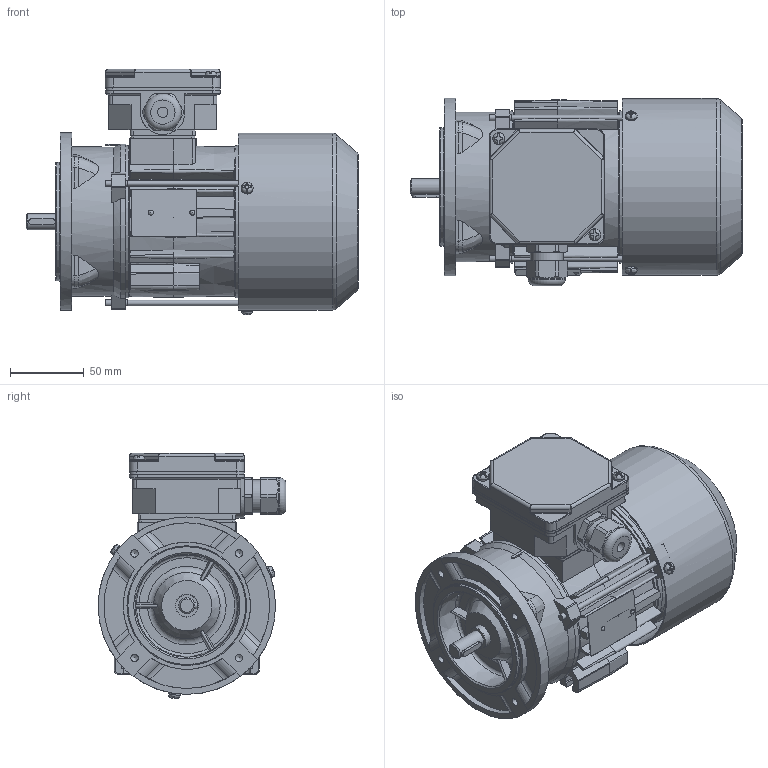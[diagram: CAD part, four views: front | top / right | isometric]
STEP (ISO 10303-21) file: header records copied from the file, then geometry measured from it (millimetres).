
FILE_DESCRIPTION( ( 'Unknown' ), '1' );
FILE_NAME( 'G:/Poczta Tk-1/STP/w.m.63/Sh63/SKh63-C1.stp', 'Unknown', ( 'K. Szlosek' ), ( 'BESEL S.A.' ), 'PSStep 17.0.49', 'Unknown', ' ' );
FILE_SCHEMA( ( 'AUTOMOTIVE_DESIGN { 1 0 10303 214 1 1 1 1 }' ) );
Length unit declared in the file: millimetre
Products named in the file (29): Assem1; K3-9973 Kadłub ze stojanem wykończonym Sh63-C; K3-5320 Tarcza łożyskowa P Sg63; K4-2320 Uszczelka nr 1 Sh71,80; Wpust A4x4x18; K3-5321 osłona przewietrznika Sg63; K4-2820 Uszczelka nr 2 Sh71,80; K2-0860 Pokrywka skrzynki zaciskowej; Wkręt samogwintujący M4x16; K2-1769 Przewietrznik Sg63; Wkręt samogwintujący M4x8; Nitokołek A 2x6; K3-9974 wał Sh63-C standard; K2-0859 Podstawa skrzynki 6-cio zaciskowej; Łożysko 6202; Dławnica M20x1,5; Śruba ściągająca E_M4x100; Tabliczka znamionowa 32x44; K1-1111 Tarcza kołnierzowa w.m. 63 IMB14_1
Assembly tree (45 placements, depth 2):
  Assem1
    K3-9973 Kadłub ze stojanem wykończonym Sh63-C
    K3-5320 Tarcza łożyskowa P Sg63
    K4-2320 Uszczelka nr 1 Sh71,80
    Wpust A4x4x18
    K3-5321 osłona przewietrznika Sg63
    K4-2820 Uszczelka nr 2 Sh71,80
    K2-0860 Pokrywka skrzynki zaciskowej
    Wkręt samogwintujący M4x16  x2
    K2-1769 Przewietrznik Sg63
    Wkręt samogwintujący M4x8  x3
    Nitokołek A 2x6  x2
    K3-9974 wał Sh63-C standard
    K2-0859 Podstawa skrzynki 6-cio zaciskowej
    Łożysko 6202  x2
    Łożysko 6202  x2
    Łożysko 6202  x2
    Łożysko 6202  x2
    Łożysko 6202  x2
    Łożysko 6202  x2
    Łożysko 6202  x2
    Łożysko 6202  x2
    Łożysko 6202  x2
    Łożysko 6202  x2
    Łożysko 6202  x2
    Dławnica M20x1,5
    Śruba ściągająca E_M4x100  x3
    Tabliczka znamionowa 32x44
    K1-1111 Tarcza kołnierzowa w.m. 63 IMB14_1
Bounding box: 224.5 x 127 x 165.9 mm (x, y, z)
Volume: 532324.5 mm3; surface area: 361916.7 mm2
Topology: 45 solids, 63 shells, 1900 faces, 5219 edges, 3383 vertices
Faces by surface type: plane 930, cylinder 555, cone 130, torus 126, bspline 120, sphere 39
Full cylindrical faces by diameter (mm): 2 x2, 2.4 x2, 3.3 x3, 3.7 x10, 4 x8, 4.5 x4, 4.8 x4, 5 x8, 7 x4, 8 x6, 11 x1, 12.9 x1, 13.1 x1, 13.5 x1, 15 x4, 15.4 x2, 18.376 x1, 18.38 x1, 19 x2, 19.5 x1, 20 x2, 20.1 x1, 21.52 x4, 22.3 x1, 25 x1, 28 x2, 28.48 x4, 31 x2, 35 x4, 72 x1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
Entity records: 83170 total; most frequent: CARTESIAN_POINT 26305, ORIENTED_EDGE 8998, DIRECTION 8574, EDGE_CURVE 4499, AXIS2_PLACEMENT_3D 3194, VERTEX_POINT 3060, LINE 2186, VECTOR 2186
